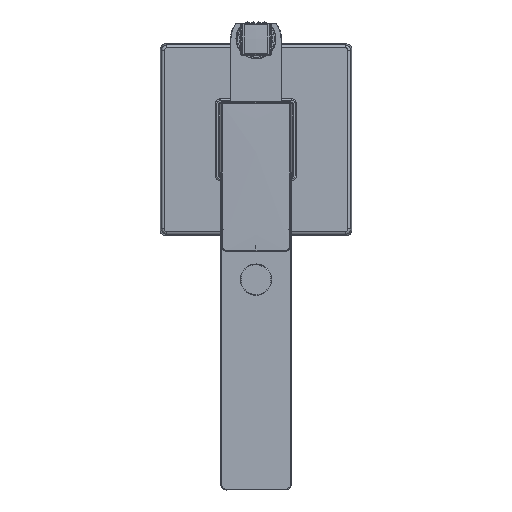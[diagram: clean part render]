
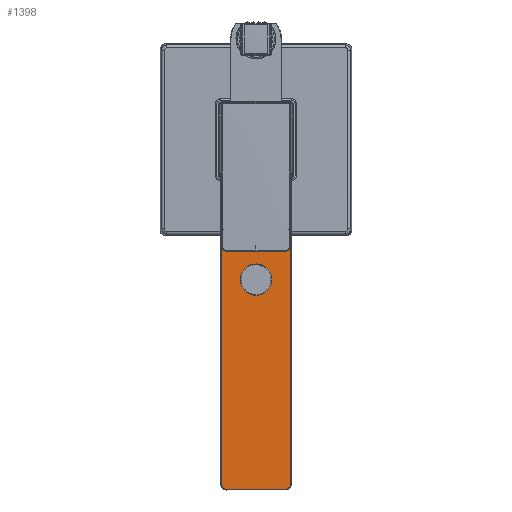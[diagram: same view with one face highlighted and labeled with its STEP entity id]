
A CAD part, top view. The second image highlights one B-rep face of the part: STEP entity #1398.
In plain terms, the highlighted planar face has unit normal (0, 0, 1).
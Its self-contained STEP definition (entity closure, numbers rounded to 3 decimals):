
#405=FACE_BOUND('',#5759,.T.);
#406=FACE_BOUND('',#5760,.T.);
#1398=ADVANCED_FACE('',(#3513,#405,#406),#31086,.T.);
#3513=FACE_OUTER_BOUND('',#5758,.T.);
#5758=EDGE_LOOP('',(#10585,#10586,#10587,#10588,#10589,#10590));
#5759=EDGE_LOOP('',(#10591,#10592));
#5760=EDGE_LOOP('',(#10593,#10594));
#10585=ORIENTED_EDGE('',*,*,#18569,.F.);
#10586=ORIENTED_EDGE('',*,*,#18555,.F.);
#10587=ORIENTED_EDGE('',*,*,#18552,.F.);
#10588=ORIENTED_EDGE('',*,*,#18548,.F.);
#10589=ORIENTED_EDGE('',*,*,#18545,.F.);
#10590=ORIENTED_EDGE('',*,*,#18568,.F.);
#10591=ORIENTED_EDGE('',*,*,#18572,.T.);
#10592=ORIENTED_EDGE('',*,*,#18575,.T.);
#10593=ORIENTED_EDGE('',*,*,#18571,.T.);
#10594=ORIENTED_EDGE('',*,*,#18570,.T.);
#18545=EDGE_CURVE('',#27744,#27743,#22785,.T.);
#18548=EDGE_CURVE('',#27743,#27745,#22788,.T.);
#18552=EDGE_CURVE('',#27745,#27746,#22792,.T.);
#18555=EDGE_CURVE('',#27746,#27747,#22795,.T.);
#18568=EDGE_CURVE('',#27748,#27744,#22802,.T.);
#18569=EDGE_CURVE('',#27747,#27748,#22803,.T.);
#18570=EDGE_CURVE('',#27756,#27757,#22804,.T.);
#18571=EDGE_CURVE('',#27757,#27756,#22805,.T.);
#18572=EDGE_CURVE('',#27755,#27754,#22806,.T.);
#18575=EDGE_CURVE('',#27754,#27755,#22809,.T.);
#22785=(
BOUNDED_CURVE()
B_SPLINE_CURVE(2,(#75718,#75719,#75720,#75721,#75722),.UNSPECIFIED.,.F.,
 .F.)
B_SPLINE_CURVE_WITH_KNOTS((3,2,3),(0.,5.355,5.498),
 .UNSPECIFIED.)
CURVE()
GEOMETRIC_REPRESENTATION_ITEM()
RATIONAL_B_SPLINE_CURVE((1.,0.72,1.,1.,
1.))
REPRESENTATION_ITEM('')
);
#22788=(
BOUNDED_CURVE()
B_SPLINE_CURVE(1,(#75731,#75732),.UNSPECIFIED.,.F.,.F.)
B_SPLINE_CURVE_WITH_KNOTS((2,2),(0.,268.3),.UNSPECIFIED.)
CURVE()
GEOMETRIC_REPRESENTATION_ITEM()
RATIONAL_B_SPLINE_CURVE((1.,1.))
REPRESENTATION_ITEM('')
);
#22792=(
BOUNDED_CURVE()
B_SPLINE_CURVE(1,(#75742,#75743),.UNSPECIFIED.,.F.,.F.)
B_SPLINE_CURVE_WITH_KNOTS((2,2),(0.,48.6),.UNSPECIFIED.)
CURVE()
GEOMETRIC_REPRESENTATION_ITEM()
RATIONAL_B_SPLINE_CURVE((1.,1.))
REPRESENTATION_ITEM('')
);
#22795=(
BOUNDED_CURVE()
B_SPLINE_CURVE(1,(#75750,#75751),.UNSPECIFIED.,.F.,.F.)
B_SPLINE_CURVE_WITH_KNOTS((2,2),(0.,268.3),.UNSPECIFIED.)
CURVE()
GEOMETRIC_REPRESENTATION_ITEM()
RATIONAL_B_SPLINE_CURVE((1.,1.))
REPRESENTATION_ITEM('')
);
#22802=(
BOUNDED_CURVE()
B_SPLINE_CURVE(1,(#75804,#75805),.UNSPECIFIED.,.F.,.F.)
B_SPLINE_CURVE_WITH_KNOTS((2,2),(0.,41.6),.UNSPECIFIED.)
CURVE()
GEOMETRIC_REPRESENTATION_ITEM()
RATIONAL_B_SPLINE_CURVE((1.,1.))
REPRESENTATION_ITEM('')
);
#22803=(
BOUNDED_CURVE()
B_SPLINE_CURVE(2,(#75806,#75807,#75808),.UNSPECIFIED.,.F.,.F.)
B_SPLINE_CURVE_WITH_KNOTS((3,3),(0.,5.498),.UNSPECIFIED.)
CURVE()
GEOMETRIC_REPRESENTATION_ITEM()
RATIONAL_B_SPLINE_CURVE((1.,0.707,1.))
REPRESENTATION_ITEM('')
);
#22804=(
BOUNDED_CURVE()
B_SPLINE_CURVE(2,(#75809,#75810,#75811,#75812,#75813),.UNSPECIFIED.,.F.,
 .F.)
B_SPLINE_CURVE_WITH_KNOTS((3,2,3),(0.,36.111,72.221),
 .UNSPECIFIED.)
CURVE()
GEOMETRIC_REPRESENTATION_ITEM()
RATIONAL_B_SPLINE_CURVE((1.,0.707,1.,0.707,1.))
REPRESENTATION_ITEM('')
);
#22805=(
BOUNDED_CURVE()
B_SPLINE_CURVE(2,(#75814,#75815,#75816,#75817,#75818),.UNSPECIFIED.,.F.,
 .F.)
B_SPLINE_CURVE_WITH_KNOTS((3,2,3),(0.,36.111,72.221),
 .UNSPECIFIED.)
CURVE()
GEOMETRIC_REPRESENTATION_ITEM()
RATIONAL_B_SPLINE_CURVE((1.,0.707,1.,0.707,1.))
REPRESENTATION_ITEM('')
);
#22806=(
BOUNDED_CURVE()
B_SPLINE_CURVE(2,(#75819,#75820,#75821,#75822,#75823,#75824,#75825),
 .UNSPECIFIED.,.F.,.F.)
B_SPLINE_CURVE_WITH_KNOTS((3,2,2,3),(0.,10.115,20.482,
20.735),.UNSPECIFIED.)
CURVE()
GEOMETRIC_REPRESENTATION_ITEM()
RATIONAL_B_SPLINE_CURVE((1.,0.719,1.,0.707,
1.,1.,1.))
REPRESENTATION_ITEM('')
);
#22809=(
BOUNDED_CURVE()
B_SPLINE_CURVE(2,(#75836,#75837,#75838,#75839,#75840,#75841,#75842),
 .UNSPECIFIED.,.F.,.F.)
B_SPLINE_CURVE_WITH_KNOTS((3,2,2,3),(0.,10.115,20.482,
20.735),.UNSPECIFIED.)
CURVE()
GEOMETRIC_REPRESENTATION_ITEM()
RATIONAL_B_SPLINE_CURVE((1.,0.719,1.,0.707,
1.,1.,1.))
REPRESENTATION_ITEM('')
);
#27743=VERTEX_POINT('',#74707);
#27744=VERTEX_POINT('',#74708);
#27745=VERTEX_POINT('',#74709);
#27746=VERTEX_POINT('',#74710);
#27747=VERTEX_POINT('',#74711);
#27748=VERTEX_POINT('',#74712);
#27754=VERTEX_POINT('',#74718);
#27755=VERTEX_POINT('',#74719);
#27756=VERTEX_POINT('',#74720);
#27757=VERTEX_POINT('',#74721);
#31086=PLANE('',#32047);
#32047=AXIS2_PLACEMENT_3D('',#73515,#32992,$);
#32992=DIRECTION('',(0.,0.,1.));
#73515=CARTESIAN_POINT('',(-19.249,-192.748,426.803));
#74707=CARTESIAN_POINT('',(-14.269,-161.948,426.803));
#74708=CARTESIAN_POINT('',(-10.769,-165.448,426.803));
#74709=CARTESIAN_POINT('',(-14.269,106.352,426.803));
#74710=CARTESIAN_POINT('',(34.331,106.352,426.803));
#74711=CARTESIAN_POINT('',(34.331,-161.948,426.803));
#74712=CARTESIAN_POINT('',(30.831,-165.448,426.803));
#74718=CARTESIAN_POINT('',(10.031,-11.348,426.803));
#74719=CARTESIAN_POINT('',(10.031,-24.548,426.803));
#74720=CARTESIAN_POINT('',(10.031,105.041,426.803));
#74721=CARTESIAN_POINT('',(10.031,59.063,426.803));
#75718=CARTESIAN_POINT('',(-10.769,-165.448,426.803));
#75719=CARTESIAN_POINT('',(-14.142,-165.448,426.803));
#75720=CARTESIAN_POINT('',(-14.267,-162.077,426.803));
#75721=CARTESIAN_POINT('',(-14.269,-162.013,426.803));
#75722=CARTESIAN_POINT('',(-14.269,-161.948,426.803));
#75731=CARTESIAN_POINT('',(-14.269,-161.948,426.803));
#75732=CARTESIAN_POINT('',(-14.269,106.352,426.803));
#75742=CARTESIAN_POINT('',(-14.269,106.352,426.803));
#75743=CARTESIAN_POINT('',(34.331,106.352,426.803));
#75750=CARTESIAN_POINT('',(34.331,106.352,426.803));
#75751=CARTESIAN_POINT('',(34.331,-161.948,426.803));
#75804=CARTESIAN_POINT('',(30.831,-165.448,426.803));
#75805=CARTESIAN_POINT('',(-10.769,-165.448,426.803));
#75806=CARTESIAN_POINT('',(34.331,-161.948,426.803));
#75807=CARTESIAN_POINT('',(34.331,-165.448,426.803));
#75808=CARTESIAN_POINT('',(30.831,-165.448,426.803));
#75809=CARTESIAN_POINT('',(10.031,105.041,426.803));
#75810=CARTESIAN_POINT('',(33.02,105.041,426.803));
#75811=CARTESIAN_POINT('',(33.02,82.052,426.803));
#75812=CARTESIAN_POINT('',(33.02,59.063,426.803));
#75813=CARTESIAN_POINT('',(10.031,59.063,426.803));
#75814=CARTESIAN_POINT('',(10.031,59.063,426.803));
#75815=CARTESIAN_POINT('',(-12.958,59.063,426.803));
#75816=CARTESIAN_POINT('',(-12.958,82.052,426.803));
#75817=CARTESIAN_POINT('',(-12.958,105.041,426.803));
#75818=CARTESIAN_POINT('',(10.031,105.041,426.803));
#75819=CARTESIAN_POINT('',(10.031,-24.548,426.803));
#75820=CARTESIAN_POINT('',(3.656,-24.548,426.803));
#75821=CARTESIAN_POINT('',(3.435,-18.177,426.803));
#75822=CARTESIAN_POINT('',(3.206,-11.581,426.803));
#75823=CARTESIAN_POINT('',(9.802,-11.352,426.803));
#75824=CARTESIAN_POINT('',(9.917,-11.348,426.803));
#75825=CARTESIAN_POINT('',(10.031,-11.348,426.803));
#75836=CARTESIAN_POINT('',(10.031,-11.348,426.803));
#75837=CARTESIAN_POINT('',(16.406,-11.348,426.803));
#75838=CARTESIAN_POINT('',(16.627,-17.719,426.803));
#75839=CARTESIAN_POINT('',(16.856,-24.315,426.803));
#75840=CARTESIAN_POINT('',(10.26,-24.544,426.803));
#75841=CARTESIAN_POINT('',(10.145,-24.548,426.803));
#75842=CARTESIAN_POINT('',(10.031,-24.548,426.803));
